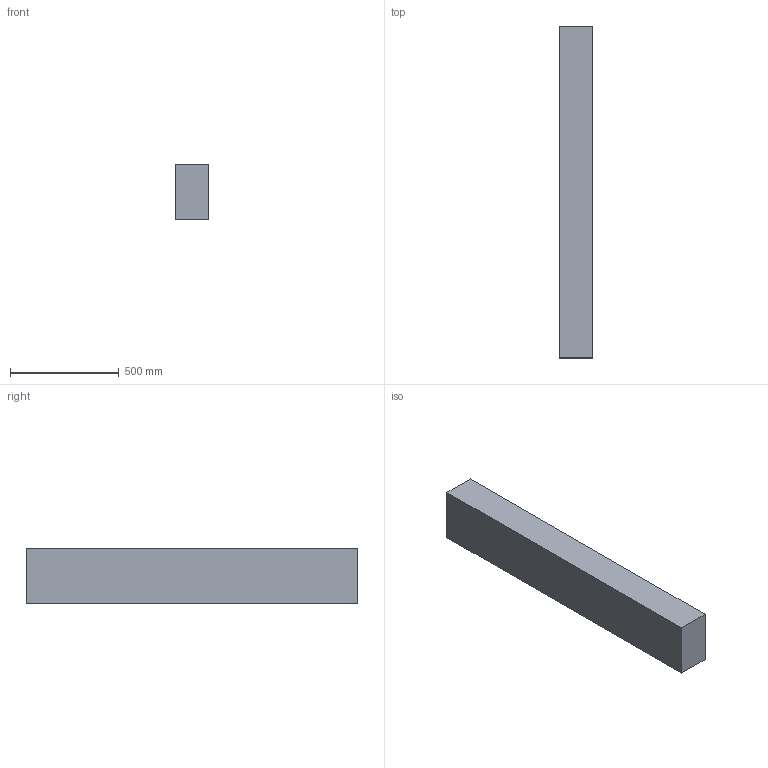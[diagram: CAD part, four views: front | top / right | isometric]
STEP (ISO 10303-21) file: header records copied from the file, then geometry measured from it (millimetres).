
FILE_DESCRIPTION(/* description */ (''),/* implementation_level */ '2;1');
FILE_NAME(/* name */ '6x10x60',/* time_stamp */ '2024-09-20T11:47:11-05:00',/* author */ (''),/* organization */ (''),/* preprocessor_version */ 'ST-DEVELOPER v19.2',/* originating_system */ 'Rhino 8.5',/* authorisation */ '');
FILE_SCHEMA (('CONFIG_CONTROL_DESIGN'));
Length unit declared in the file: inch
Products named in the file (1): Document
Bounding box: 152.4 x 1524 x 254 mm (x, y, z)
Volume: 58993430.4 mm3; surface area: 1316126.4 mm2
Topology: 1 solids, 1 shells, 6 faces, 12 edges, 8 vertices
Faces by surface type: plane 6
Entity records: 226 total; most frequent: CARTESIAN_POINT 40, ORIENTED_EDGE 24, EDGE_CURVE 12, B_SPLINE_CURVE_WITH_KNOTS 12, DIRECTION 10, VERTEX_POINT 8, AXIS2_PLACEMENT_3D 8, ORGANIZATION 7
